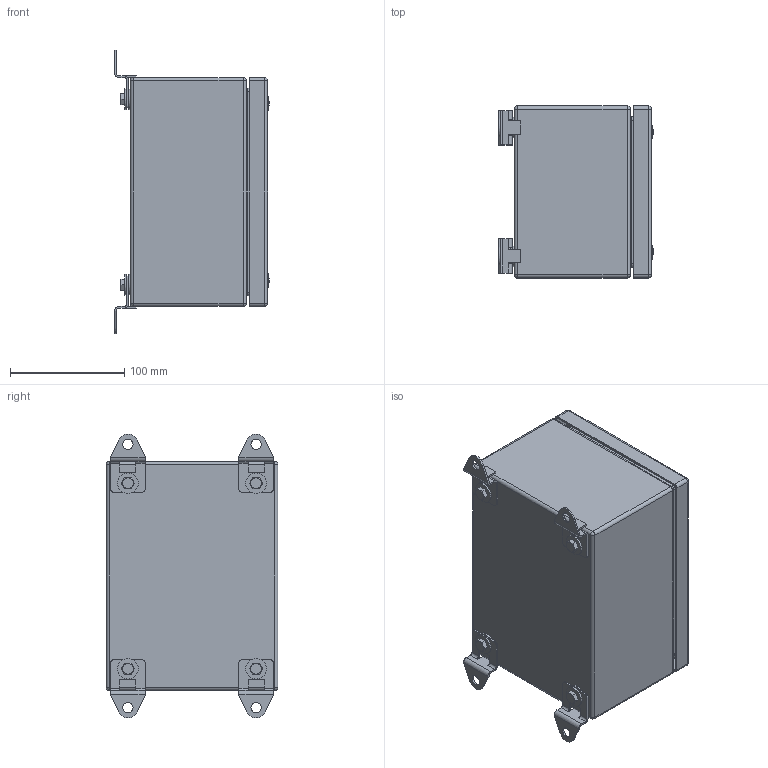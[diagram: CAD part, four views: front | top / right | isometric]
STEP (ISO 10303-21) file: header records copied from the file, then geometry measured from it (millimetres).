
FILE_DESCRIPTION(('STEP AP242'), '1');
FILE_NAME('ÊÊ Êîðîáêà êëåììíàÿ', '', ('UNSPECIFIED'), ('UNSPECIFIED'), 'C3D Converter', 'C3D Toolkit', '');
FILE_SCHEMA(('AP242_MANAGED_MODEL_BASED_3D_ENGINEERING_MIM_LF { 1 0 10303 442 1 1 4 }'));
Length unit declared in the file: millimetre
Products named in the file (22): КК; 510; 520; 521; 530; 531; 540; 541; 203-0655.61; НК.КК; 551;  202-1103.15-00530; 501
Assembly tree (53 placements, depth 4):
  КК
    510
      520
        521
        (unnamed)
        (unnamed)  x4
      530  x4
        531
        (unnamed)
    540
      541
      (unnamed)
      203-0655.61  x4
    НК.КК  x4
      551
      (unnamed)
      (unnamed)
      (unnamed)
      (unnamed)
      (unnamed)
     202-1103.15-00530  x4
    501
    (unnamed)  x4
    (unnamed)  x4
    (unnamed)  x4
    (unnamed)  x4
Bounding box: 135.19 x 150 x 248 mm (x, y, z)
Volume: 340586.2 mm3; surface area: 415132 mm2
Topology: 70 solids, 70 shells, 1114 faces, 2514 edges, 1532 vertices
Faces by surface type: plane 640, cylinder 294, cone 102, torus 38, sphere 24, bspline 16
Full cylindrical faces by diameter (mm): 4 x4, 4.134 x4, 4.917 x8, 5 x4, 5.2 x8, 5.8 x4, 6 x10, 6.4 x12, 6.5 x8, 6.6 x4, 6.647 x4, 8 x4, 9 x4, 11 x4, 11.5 x4, 12 x4, 18 x8
Entity records: 18539 total; most frequent: CARTESIAN_POINT 6831, DIRECTION 2073, ORIENTED_EDGE 1820, EDGE_CURVE 910, AXIS2_PLACEMENT_3D 777, VERTEX_POINT 587, EDGE_LOOP 567, LINE 519
